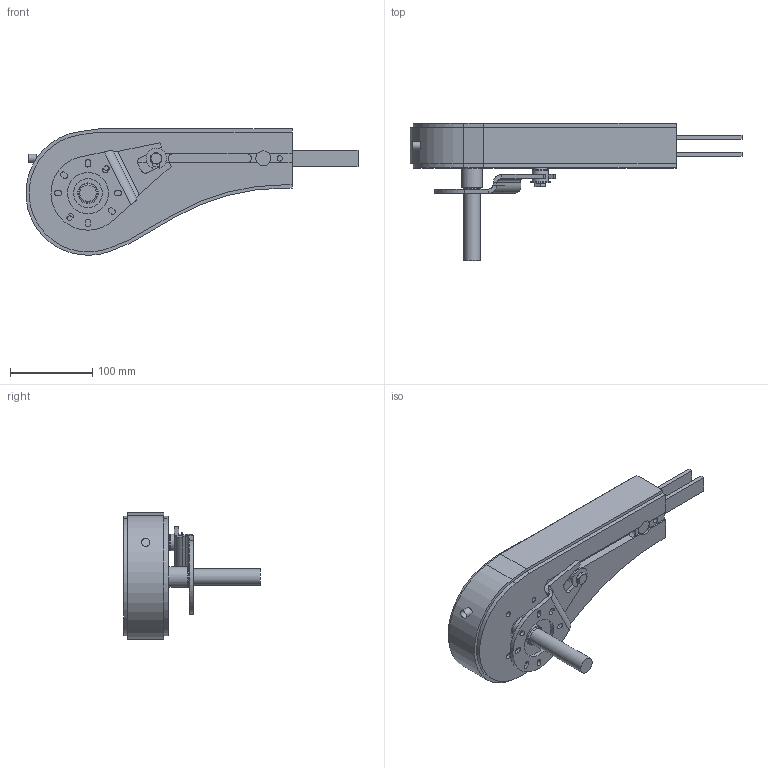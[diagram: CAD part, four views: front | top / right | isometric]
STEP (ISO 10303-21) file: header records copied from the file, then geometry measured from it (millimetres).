
FILE_DESCRIPTION(/* description */ ('Endantriebseinheit FS, medium, ohne Rutschkupplung, links, geschlossen, direkt'),/* implementation_level */ '2;1');
FILE_NAME(/* name */ 'T:\vdz0\Step Daten Website\modulflex FS-System\Antriebseinheiten rechts - links\FSEB_MNLGP_MA-71399.stp',/* time_stamp */ '2024-08-20T14:35:29+02:00',/* author */ ('vdz0'),/* organization */ ('modular automation GmbH'),/* preprocessor_version */ 'ST-DEVELOPER v18.1',/* originating_system */ 'Autodesk Inventor 2021',/* authorisation */ '');
FILE_SCHEMA (('CONFIG_CONTROL_DESIGN'));
Length unit declared in the file: millimetre
Products named in the file (1): FSEB_MNLGP_MA
Bounding box: 403.28 x 166.3 x 153.62 mm (x, y, z)
Volume: 1926995.3 mm3; surface area: 226465.2 mm2
Topology: 2 solids, 4 shells, 209 faces, 522 edges, 341 vertices
Faces by surface type: plane 130, cylinder 68, cone 6, bspline 4, torus 1
Full cylindrical faces by diameter (mm): 6.647 x10, 8 x1, 8.1 x1, 10 x2, 11.63 x1, 12 x2, 12.1 x1, 16 x1, 18.3 x4, 20 x3, 25 x1, 35 x2, 50 x1
Entity records: 6973 total; most frequent: CARTESIAN_POINT 1537, DIRECTION 1074, ORIENTED_EDGE 1040, EDGE_CURVE 522, AXIS2_PLACEMENT_3D 366, LINE 342, VECTOR 342, VERTEX_POINT 341
